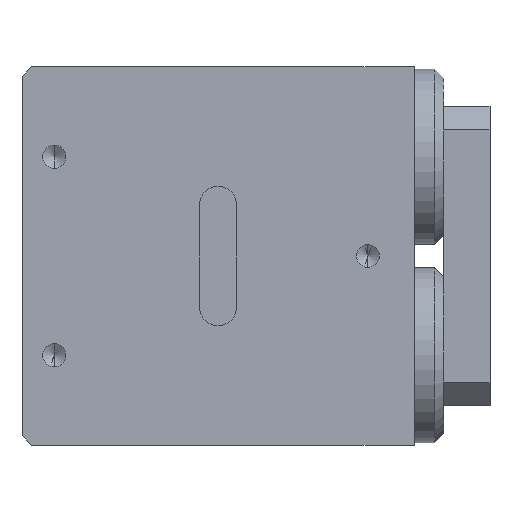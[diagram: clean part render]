
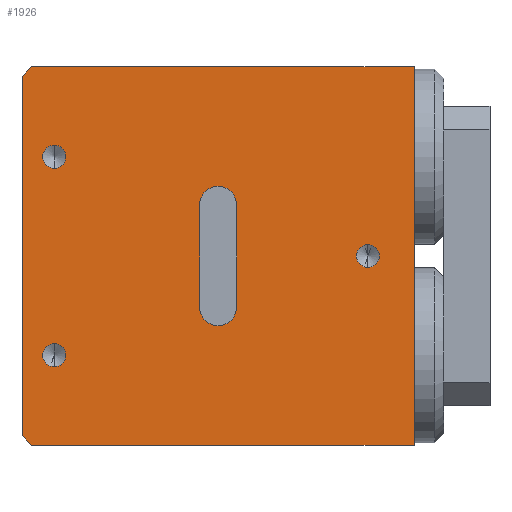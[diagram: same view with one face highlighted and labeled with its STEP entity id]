
A CAD part, front view. The second image highlights one B-rep face of the part: STEP entity #1926.
In plain terms, the highlighted planar face has unit normal (0, -1, 0).
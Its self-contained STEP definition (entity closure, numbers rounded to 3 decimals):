
#16 = DIRECTION ( 'NONE',  ( 0., 0., 1. ) ) ;
#49 = EDGE_CURVE ( 'NONE', #2956, #3080, #2026, .T. ) ;
#65 = DIRECTION ( 'NONE',  ( 0., -1., 0. ) ) ;
#80 = EDGE_CURVE ( 'NONE', #1358, #473, #608, .T. ) ;
#93 = LINE ( 'NONE', #836, #830 ) ;
#112 = CARTESIAN_POINT ( 'NONE',  ( 7., 0., 17. ) ) ;
#123 = CARTESIAN_POINT ( 'NONE',  ( 75., 0., 41. ) ) ;
#142 = EDGE_CURVE ( 'NONE', #1896, #2682, #645, .T. ) ;
#189 = DIRECTION ( 'NONE',  ( 0., 0., -1. ) ) ;
#204 = AXIS2_PLACEMENT_3D ( 'NONE', #123, #2060, #408 ) ;
#215 = ORIENTED_EDGE ( 'NONE', *, *, #666, .F. ) ;
#264 = CARTESIAN_POINT ( 'NONE',  ( 7., 0., 22. ) ) ;
#273 = VECTOR ( 'NONE', #2611, 1000. ) ;
#290 = ORIENTED_EDGE ( 'NONE', *, *, #1787, .F. ) ;
#292 = ORIENTED_EDGE ( 'NONE', *, *, #1229, .F. ) ;
#362 = AXIS2_PLACEMENT_3D ( 'NONE', #2794, #2200, #16 ) ;
#391 = CARTESIAN_POINT ( 'NONE',  ( 7., 0., 62.5 ) ) ;
#408 = DIRECTION ( 'NONE',  ( 0., 0., -1. ) ) ;
#424 = DIRECTION ( 'NONE',  ( 0., -1., 0. ) ) ;
#434 = VECTOR ( 'NONE', #2412, 1000. ) ;
#463 = CARTESIAN_POINT ( 'NONE',  ( 0., 0., 2. ) ) ;
#473 = VERTEX_POINT ( 'NONE', #1927 ) ;
#475 = CARTESIAN_POINT ( 'NONE',  ( 0., 0., 0. ) ) ;
#502 = FACE_BOUND ( 'NONE', #3406, .T. ) ;
#548 = CARTESIAN_POINT ( 'NONE',  ( 0., 0., 2. ) ) ;
#559 = ORIENTED_EDGE ( 'NONE', *, *, #2256, .F. ) ;
#576 = ORIENTED_EDGE ( 'NONE', *, *, #1851, .F. ) ;
#583 = EDGE_CURVE ( 'NONE', #2745, #887, #3372, .T. ) ;
#608 = LINE ( 'NONE', #1208, #1370 ) ;
#627 = CARTESIAN_POINT ( 'NONE',  ( 85., 0., 0. ) ) ;
#645 = CIRCLE ( 'NONE', #2466, 2.5 ) ;
#666 = EDGE_CURVE ( 'NONE', #3117, #3460, #1877, .T. ) ;
#677 = CARTESIAN_POINT ( 'NONE',  ( 0., 0., 82. ) ) ;
#705 = EDGE_CURVE ( 'NONE', #2242, #3379, #1178, .T. ) ;
#712 = ORIENTED_EDGE ( 'NONE', *, *, #731, .T. ) ;
#731 = EDGE_CURVE ( 'NONE', #2163, #2956, #1979, .T. ) ;
#739 = CARTESIAN_POINT ( 'NONE',  ( 75., 0., 43.5 ) ) ;
#759 = DIRECTION ( 'NONE',  ( 0., 0., -1. ) ) ;
#764 = CARTESIAN_POINT ( 'NONE',  ( 2., 0., 82. ) ) ;
#790 = VECTOR ( 'NONE', #2324, 1000. ) ;
#830 = VECTOR ( 'NONE', #3195, 1000. ) ;
#836 = CARTESIAN_POINT ( 'NONE',  ( 85., 0., 82. ) ) ;
#838 = EDGE_CURVE ( 'NONE', #3080, #2243, #1800, .T. ) ;
#880 = CARTESIAN_POINT ( 'NONE',  ( 7., 0., 62.5 ) ) ;
#887 = VERTEX_POINT ( 'NONE', #1861 ) ;
#913 = EDGE_LOOP ( 'NONE', ( #2273, #292 ) ) ;
#934 = EDGE_LOOP ( 'NONE', ( #2459, #1481, #712, #1265, #3302, #3456 ) ) ;
#944 = DIRECTION ( 'NONE',  ( 0., 0., -1. ) ) ;
#961 = CIRCLE ( 'NONE', #1667, 2.5 ) ;
#985 = CARTESIAN_POINT ( 'NONE',  ( 75., 0., 41. ) ) ;
#986 = LINE ( 'NONE', #1440, #273 ) ;
#1039 = AXIS2_PLACEMENT_3D ( 'NONE', #985, #65, #2543 ) ;
#1072 = ORIENTED_EDGE ( 'NONE', *, *, #142, .F. ) ;
#1103 = VECTOR ( 'NONE', #2161, 1000. ) ;
#1142 = DIRECTION ( 'NONE',  ( 0., 1., 0. ) ) ;
#1151 = DIRECTION ( 'NONE',  ( 0., 0., -1. ) ) ;
#1167 = ORIENTED_EDGE ( 'NONE', *, *, #705, .F. ) ;
#1178 = CIRCLE ( 'NONE', #204, 2.5 ) ;
#1208 = CARTESIAN_POINT ( 'NONE',  ( 0., 0., 82. ) ) ;
#1229 = EDGE_CURVE ( 'NONE', #887, #2745, #961, .T. ) ;
#1253 = EDGE_CURVE ( 'NONE', #2592, #3117, #1812, .T. ) ;
#1265 = ORIENTED_EDGE ( 'NONE', *, *, #49, .T. ) ;
#1358 = VERTEX_POINT ( 'NONE', #764 ) ;
#1370 = VECTOR ( 'NONE', #3439, 1000. ) ;
#1384 = AXIS2_PLACEMENT_3D ( 'NONE', #880, #2843, #1151 ) ;
#1400 = CIRCLE ( 'NONE', #1039, 2.5 ) ;
#1403 = EDGE_CURVE ( 'NONE', #3379, #2242, #1400, .T. ) ;
#1440 = CARTESIAN_POINT ( 'NONE',  ( 46.5, 0., 52.1 ) ) ;
#1463 = DIRECTION ( 'NONE',  ( 0., 0., 1. ) ) ;
#1481 = ORIENTED_EDGE ( 'NONE', *, *, #3454, .T. ) ;
#1646 = CIRCLE ( 'NONE', #3412, 2.5 ) ;
#1667 = AXIS2_PLACEMENT_3D ( 'NONE', #391, #2251, #2969 ) ;
#1685 = CARTESIAN_POINT ( 'NONE',  ( 7., 0., 60. ) ) ;
#1713 = ORIENTED_EDGE ( 'NONE', *, *, #2598, .F. ) ;
#1731 = ORIENTED_EDGE ( 'NONE', *, *, #1253, .F. ) ;
#1787 = EDGE_CURVE ( 'NONE', #2682, #1896, #1646, .T. ) ;
#1800 = LINE ( 'NONE', #475, #434 ) ;
#1812 = CIRCLE ( 'NONE', #2050, 4. ) ;
#1816 = EDGE_CURVE ( 'NONE', #473, #2243, #93, .T. ) ;
#1839 = DIRECTION ( 'NONE',  ( 0., -1., 0. ) ) ;
#1844 = LINE ( 'NONE', #3265, #1103 ) ;
#1851 = EDGE_CURVE ( 'NONE', #3460, #2427, #2968, .T. ) ;
#1861 = CARTESIAN_POINT ( 'NONE',  ( 7., 0., 65. ) ) ;
#1868 = FACE_BOUND ( 'NONE', #2857, .T. ) ;
#1877 = LINE ( 'NONE', #3141, #790 ) ;
#1896 = VERTEX_POINT ( 'NONE', #112 ) ;
#1926 = ADVANCED_FACE ( 'NONE', ( #502, #1868, #1964, #2624, #3357 ), #3061, .F. ) ;
#1927 = CARTESIAN_POINT ( 'NONE',  ( 85., 0., 82. ) ) ;
#1928 = EDGE_LOOP ( 'NONE', ( #1072, #290 ) ) ;
#1964 = FACE_BOUND ( 'NONE', #913, .T. ) ;
#1979 = LINE ( 'NONE', #677, #3457 ) ;
#2026 = LINE ( 'NONE', #463, #3475 ) ;
#2028 = AXIS2_PLACEMENT_3D ( 'NONE', #3155, #1142, #3596 ) ;
#2050 = AXIS2_PLACEMENT_3D ( 'NONE', #2146, #3522, #2132 ) ;
#2060 = DIRECTION ( 'NONE',  ( 0., -1., 0. ) ) ;
#2132 = DIRECTION ( 'NONE',  ( 0., 0., -1. ) ) ;
#2146 = CARTESIAN_POINT ( 'NONE',  ( 42.5, 0., 52.1 ) ) ;
#2161 = DIRECTION ( 'NONE',  ( -0.707, 0., -0.707 ) ) ;
#2163 = VERTEX_POINT ( 'NONE', #3589 ) ;
#2200 = DIRECTION ( 'NONE',  ( 0., -1., 0. ) ) ;
#2242 = VERTEX_POINT ( 'NONE', #739 ) ;
#2243 = VERTEX_POINT ( 'NONE', #627 ) ;
#2251 = DIRECTION ( 'NONE',  ( 0., -1., 0. ) ) ;
#2256 = EDGE_CURVE ( 'NONE', #2427, #2480, #2963, .T. ) ;
#2257 = CARTESIAN_POINT ( 'NONE',  ( 2., 0., 0. ) ) ;
#2273 = ORIENTED_EDGE ( 'NONE', *, *, #583, .F. ) ;
#2301 = CARTESIAN_POINT ( 'NONE',  ( 46.5, 0., 52.1 ) ) ;
#2324 = DIRECTION ( 'NONE',  ( 0., 0., -1. ) ) ;
#2397 = DIRECTION ( 'NONE',  ( 0.707, 0., -0.707 ) ) ;
#2404 = CARTESIAN_POINT ( 'NONE',  ( 7., 0., 19.5 ) ) ;
#2412 = DIRECTION ( 'NONE',  ( 1., 0., 0. ) ) ;
#2427 = VERTEX_POINT ( 'NONE', #3592 ) ;
#2459 = ORIENTED_EDGE ( 'NONE', *, *, #80, .F. ) ;
#2466 = AXIS2_PLACEMENT_3D ( 'NONE', #2404, #1839, #189 ) ;
#2480 = VERTEX_POINT ( 'NONE', #3336 ) ;
#2543 = DIRECTION ( 'NONE',  ( 0., 0., -1. ) ) ;
#2592 = VERTEX_POINT ( 'NONE', #2301 ) ;
#2598 = EDGE_CURVE ( 'NONE', #2480, #2592, #986, .T. ) ;
#2611 = DIRECTION ( 'NONE',  ( 0., 0., 1. ) ) ;
#2624 = FACE_BOUND ( 'NONE', #1928, .T. ) ;
#2682 = VERTEX_POINT ( 'NONE', #264 ) ;
#2725 = CARTESIAN_POINT ( 'NONE',  ( 38.5, 0., 29.9 ) ) ;
#2743 = CARTESIAN_POINT ( 'NONE',  ( 42.5, 0., 29.9 ) ) ;
#2745 = VERTEX_POINT ( 'NONE', #1685 ) ;
#2782 = CARTESIAN_POINT ( 'NONE',  ( 7., 0., 19.5 ) ) ;
#2794 = CARTESIAN_POINT ( 'NONE',  ( 42.5, 0., 29.9 ) ) ;
#2843 = DIRECTION ( 'NONE',  ( 0., -1., 0. ) ) ;
#2857 = EDGE_LOOP ( 'NONE', ( #3527, #1167 ) ) ;
#2895 = AXIS2_PLACEMENT_3D ( 'NONE', #2743, #424, #1463 ) ;
#2956 = VERTEX_POINT ( 'NONE', #548 ) ;
#2963 = CIRCLE ( 'NONE', #2895, 4. ) ;
#2968 = CIRCLE ( 'NONE', #362, 4. ) ;
#2969 = DIRECTION ( 'NONE',  ( 0., 0., -1. ) ) ;
#3061 = PLANE ( 'NONE',  #2028 ) ;
#3080 = VERTEX_POINT ( 'NONE', #2257 ) ;
#3117 = VERTEX_POINT ( 'NONE', #3396 ) ;
#3141 = CARTESIAN_POINT ( 'NONE',  ( 38.5, 0., 52.1 ) ) ;
#3155 = CARTESIAN_POINT ( 'NONE',  ( 0., 0., 82. ) ) ;
#3195 = DIRECTION ( 'NONE',  ( 0., 0., -1. ) ) ;
#3265 = CARTESIAN_POINT ( 'NONE',  ( 2., 0., 82. ) ) ;
#3279 = DIRECTION ( 'NONE',  ( 0., -1., 0. ) ) ;
#3302 = ORIENTED_EDGE ( 'NONE', *, *, #838, .T. ) ;
#3336 = CARTESIAN_POINT ( 'NONE',  ( 46.5, 0., 29.9 ) ) ;
#3357 = FACE_OUTER_BOUND ( 'NONE', #934, .T. ) ;
#3372 = CIRCLE ( 'NONE', #1384, 2.5 ) ;
#3379 = VERTEX_POINT ( 'NONE', #3512 ) ;
#3396 = CARTESIAN_POINT ( 'NONE',  ( 38.5, 0., 52.1 ) ) ;
#3406 = EDGE_LOOP ( 'NONE', ( #215, #1731, #1713, #559, #576 ) ) ;
#3412 = AXIS2_PLACEMENT_3D ( 'NONE', #2782, #3279, #759 ) ;
#3439 = DIRECTION ( 'NONE',  ( 1., 0., 0. ) ) ;
#3454 = EDGE_CURVE ( 'NONE', #1358, #2163, #1844, .T. ) ;
#3456 = ORIENTED_EDGE ( 'NONE', *, *, #1816, .F. ) ;
#3457 = VECTOR ( 'NONE', #944, 1000. ) ;
#3460 = VERTEX_POINT ( 'NONE', #2725 ) ;
#3475 = VECTOR ( 'NONE', #2397, 1000. ) ;
#3512 = CARTESIAN_POINT ( 'NONE',  ( 75., 0., 38.5 ) ) ;
#3522 = DIRECTION ( 'NONE',  ( 0., -1., 0. ) ) ;
#3527 = ORIENTED_EDGE ( 'NONE', *, *, #1403, .F. ) ;
#3589 = CARTESIAN_POINT ( 'NONE',  ( 0., 0., 80. ) ) ;
#3592 = CARTESIAN_POINT ( 'NONE',  ( 42.5, 0., 25.9 ) ) ;
#3596 = DIRECTION ( 'NONE',  ( 0., 0., 1. ) ) ;
